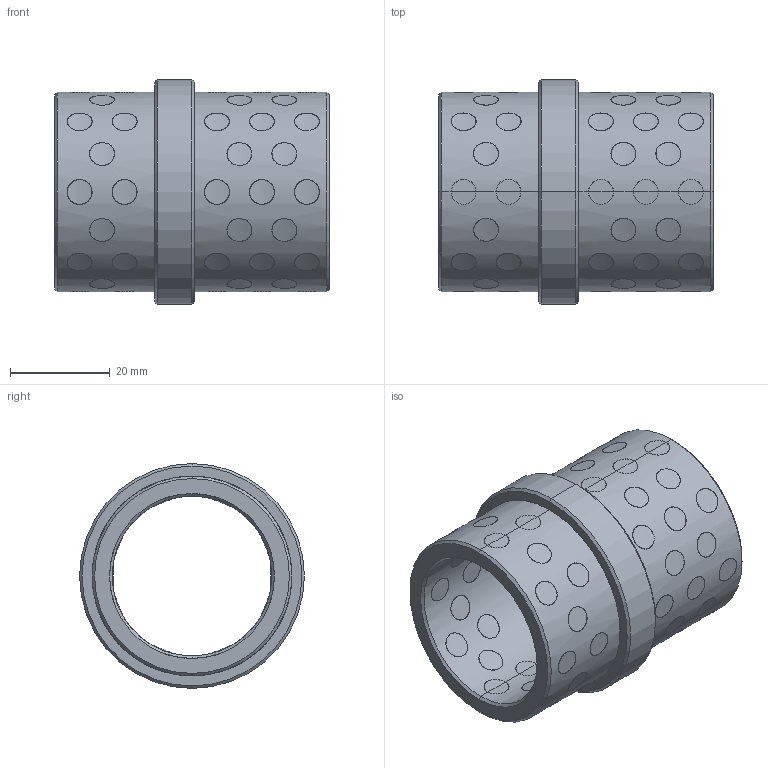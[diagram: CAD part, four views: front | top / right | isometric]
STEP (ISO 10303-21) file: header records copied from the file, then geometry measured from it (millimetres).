
FILE_DESCRIPTION(('CATIA V5 STEP Exchange'),'2;1');
FILE_NAME('C:\Users\Utente\Desktop\3D files G402\G4023235.stp','2020-04-22T08:44:01+00:00',('none'),('none'),'CATIA Version 5 Release 20 GA (IN-10)','CATIA V5 STEP AP203','none');
FILE_SCHEMA(('CONFIG_CONTROL_DESIGN'));
Products named in the file (1): G4023235
Bounding box: 55 x 45 x 45 mm (x, y, z)
Surface area: 21913.8 mm2 (no closed solid volume)
Topology: 0 solids, 428 shells, 428 faces, 1872 edges, 1872 vertices
Faces by surface type: cylinder 412, revolution 12, plane 4
Entity records: 41092 total; most frequent: CARTESIAN_POINT 28123, ORIENTED_EDGE 1872, EDGE_CURVE 1872, VERTEX_POINT 1872, DIRECTION 1523, B_SPLINE_CURVE_WITH_KNOTS 1205, VECTOR 632, LINE 632
